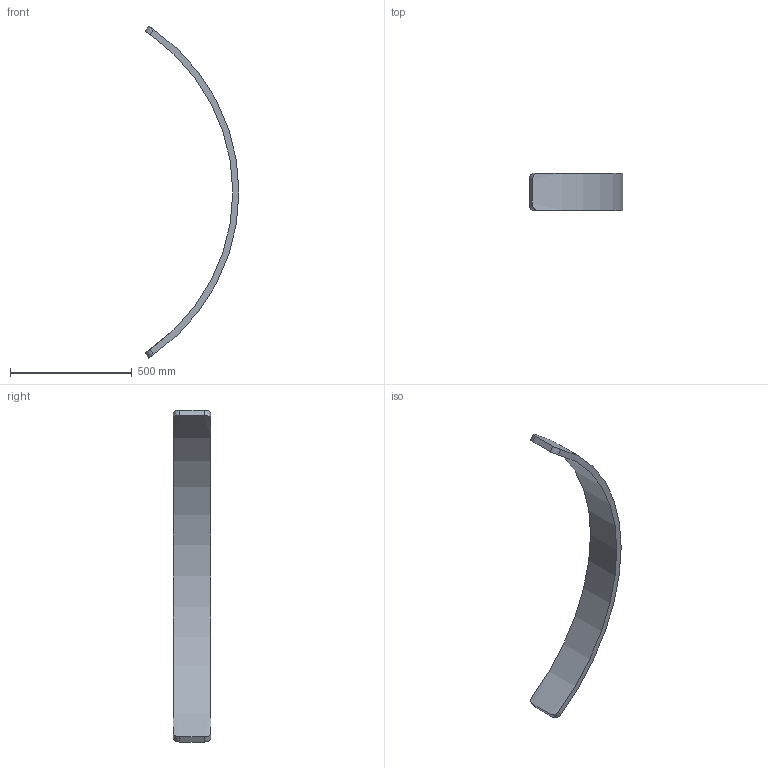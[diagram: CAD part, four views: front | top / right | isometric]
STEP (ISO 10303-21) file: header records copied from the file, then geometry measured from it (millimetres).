
FILE_DESCRIPTION (( 'STEP AP214' ), '1' );
FILE_NAME ('Section 3 AR.STEP', '2025-01-09T19:43:26', ( '' ), ( '' ), 'SwSTEP 2.0', 'SolidWorks 2024', '' );
FILE_SCHEMA (( 'AUTOMOTIVE_DESIGN' ));
Length unit declared in the file: inch
Products named in the file (1): Section 3 AR
Bounding box: 385.56 x 152.4 x 1363.32 mm (x, y, z)
Volume: 6156352.9 mm3; surface area: 572362.8 mm2
Topology: 1 solids, 1 shells, 10 faces, 24 edges, 16 vertices
Faces by surface type: cylinder 6, plane 4
Entity records: 543 total; most frequent: CARTESIAN_POINT 291, ORIENTED_EDGE 48, DIRECTION 42, EDGE_CURVE 24, VERTEX_POINT 16, AXIS2_PLACEMENT_3D 15, VECTOR 12, LINE 12
